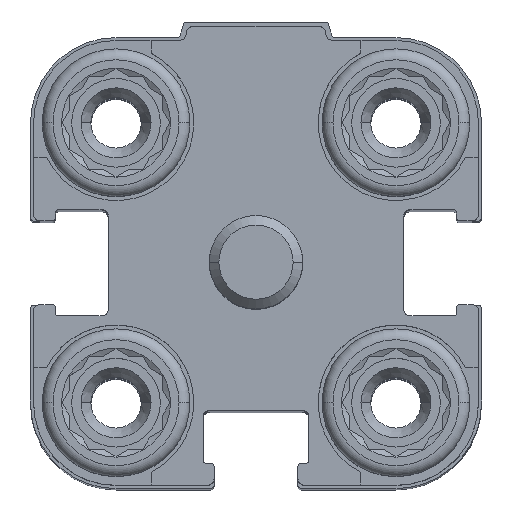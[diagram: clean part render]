
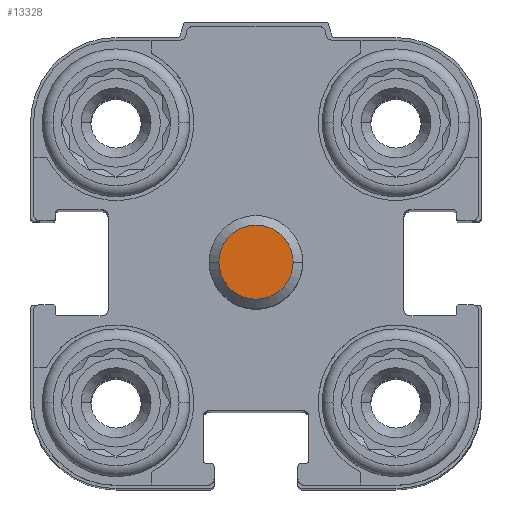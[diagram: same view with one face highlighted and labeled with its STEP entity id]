
A CAD part, top view. The second image highlights one B-rep face of the part: STEP entity #13328.
In plain terms, the highlighted planar face has unit normal (0, 0, 1).
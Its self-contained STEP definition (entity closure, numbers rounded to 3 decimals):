
#2682 = VERTEX_POINT ( 'NONE', #8100 ) ;
#2710 = CARTESIAN_POINT ( 'NONE',  ( -2.387, 0., 20.5 ) ) ;
#2777 = CIRCLE ( 'NONE', #4502, 2.387 ) ;
#2895 = PLANE ( 'NONE',  #11128 ) ;
#4502 = AXIS2_PLACEMENT_3D ( 'NONE', #13850, #9728, #12596 ) ;
#5422 = CIRCLE ( 'NONE', #14011, 2.387 ) ;
#6870 = DIRECTION ( 'NONE',  ( 0., 0., -1. ) ) ;
#8100 = CARTESIAN_POINT ( 'NONE',  ( 2.387, 0., 20.5 ) ) ;
#8385 = CARTESIAN_POINT ( 'NONE',  ( 0., 0., 20.5 ) ) ;
#9728 = DIRECTION ( 'NONE',  ( 0., 0., -1. ) ) ;
#11111 = EDGE_LOOP ( 'NONE', ( #14216, #17237 ) ) ;
#11128 = AXIS2_PLACEMENT_3D ( 'NONE', #8385, #6870, #13856 ) ;
#11728 = DIRECTION ( 'NONE',  ( -1., 0., 0. ) ) ;
#12042 = VERTEX_POINT ( 'NONE', #2710 ) ;
#12596 = DIRECTION ( 'NONE',  ( -1., 0., 0. ) ) ;
#12988 = EDGE_CURVE ( 'NONE', #12042, #2682, #5422, .T. ) ;
#13058 = DIRECTION ( 'NONE',  ( 0., 0., -1. ) ) ;
#13328 = ADVANCED_FACE ( 'NONE', ( #15194 ), #2895, .F. ) ;
#13850 = CARTESIAN_POINT ( 'NONE',  ( 0., 0., 20.5 ) ) ;
#13856 = DIRECTION ( 'NONE',  ( 0., 1., 0. ) ) ;
#14011 = AXIS2_PLACEMENT_3D ( 'NONE', #14489, #13058, #11728 ) ;
#14216 = ORIENTED_EDGE ( 'NONE', *, *, #12988, .F. ) ;
#14489 = CARTESIAN_POINT ( 'NONE',  ( 0., 0., 20.5 ) ) ;
#15194 = FACE_OUTER_BOUND ( 'NONE', #11111, .T. ) ;
#17237 = ORIENTED_EDGE ( 'NONE', *, *, #17666, .F. ) ;
#17666 = EDGE_CURVE ( 'NONE', #2682, #12042, #2777, .T. ) ;
